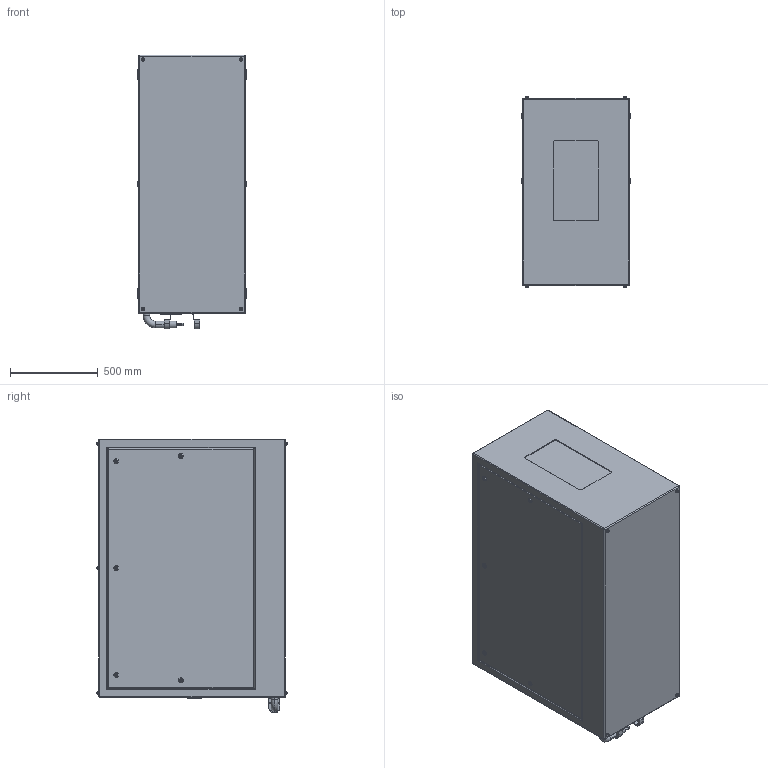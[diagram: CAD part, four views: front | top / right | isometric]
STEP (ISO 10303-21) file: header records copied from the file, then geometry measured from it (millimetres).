
FILE_DESCRIPTION (( 'STEP AP214' ), '1' );
FILE_NAME ('Oasis 59.310.P R02.STEP', '2022-08-27T16:08:24', ( '' ), ( '' ), 'SwSTEP 2.0', 'SolidWorks 2020', '' );
FILE_SCHEMA (( 'AUTOMOTIVE_DESIGN' ));
Length unit declared in the file: inch
Products named in the file (1): Oasis 59.310.P R02
Bounding box: 622.3 x 1084.07 x 1562.1 mm (x, y, z)
Volume: 956956731.1 mm3; surface area: 6799697.3 mm2
Topology: 2 solids, 8 shells, 555 faces, 1267 edges, 804 vertices
Faces by surface type: plane 307, cylinder 186, torus 54, bspline 8
Entity records: 21408 total; most frequent: CARTESIAN_POINT 3139, DIRECTION 2767, ORIENTED_EDGE 2518, EDGE_CURVE 1259, AXIS2_PLACEMENT_3D 992, VERTEX_POINT 804, VECTOR 783, LINE 783
